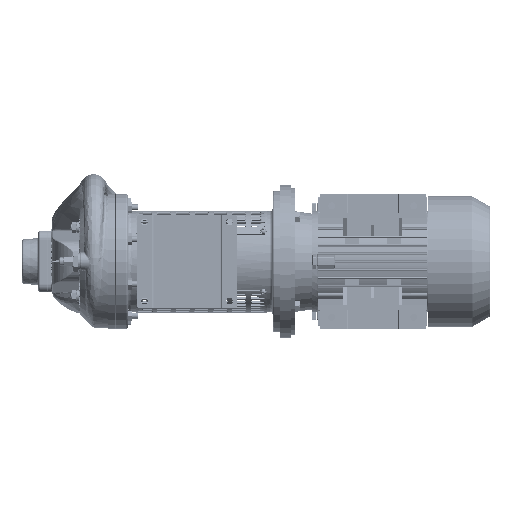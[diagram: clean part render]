
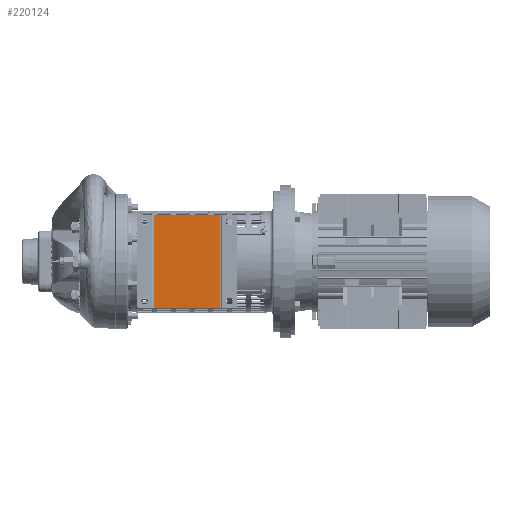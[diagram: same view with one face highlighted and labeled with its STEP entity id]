
A CAD part, front view. The second image highlights one B-rep face of the part: STEP entity #220124.
In plain terms, the highlighted planar face has unit normal (0, -1, 0) as drawn and (0, 0, 1) by its records, which use the part's own axes.
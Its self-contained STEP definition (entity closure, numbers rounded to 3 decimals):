
#214311=DIRECTION('',(1.,0.,0.));
#214312=VECTOR('',#214311,114.);
#214313=CARTESIAN_POINT('',(55.,-80.,121.));
#214314=LINE('',#214313,#214312);
#214407=DIRECTION('',(1.,0.,0.));
#214408=VECTOR('',#214407,114.);
#214409=CARTESIAN_POINT('',(55.,80.,121.));
#214410=LINE('',#214409,#214408);
#214437=DIRECTION('',(0.,1.,0.));
#214438=VECTOR('',#214437,160.);
#214439=CARTESIAN_POINT('',(55.,-80.,121.));
#214440=LINE('',#214439,#214438);
#214441=DIRECTION('',(0.,1.,0.));
#214442=VECTOR('',#214441,160.);
#214443=CARTESIAN_POINT('',(169.,-80.,121.));
#214444=LINE('',#214443,#214442);
#219430=CARTESIAN_POINT('',(55.,-80.,121.));
#219431=CARTESIAN_POINT('',(55.,80.,121.));
#219432=VERTEX_POINT('',#219430);
#219433=VERTEX_POINT('',#219431);
#219442=CARTESIAN_POINT('',(169.,-80.,121.));
#219443=CARTESIAN_POINT('',(169.,80.,121.));
#219444=VERTEX_POINT('',#219442);
#219445=VERTEX_POINT('',#219443);
#220112=CARTESIAN_POINT('',(52.,-80.,121.));
#220113=DIRECTION('',(0.,0.,1.));
#220114=DIRECTION('',(1.,0.,0.));
#220115=AXIS2_PLACEMENT_3D('',#220112,#220113,#220114);
#220116=PLANE('',#220115);
#220118=ORIENTED_EDGE('',*,*,#220117,.T.);
#220119=ORIENTED_EDGE('',*,*,#220073,.T.);
#220120=ORIENTED_EDGE('',*,*,#220106,.F.);
#220121=ORIENTED_EDGE('',*,*,#219905,.F.);
#220122=EDGE_LOOP('',(#220118,#220119,#220120,#220121));
#220123=FACE_OUTER_BOUND('',#220122,.F.);
#220124=ADVANCED_FACE('',(#220123),#220116,.T.);
#219905=EDGE_CURVE('',#219432,#219444,#214314,.T.);
#220073=EDGE_CURVE('',#219433,#219445,#214410,.T.);
#220106=EDGE_CURVE('',#219444,#219445,#214444,.T.);
#220117=EDGE_CURVE('',#219432,#219433,#214440,.T.);
